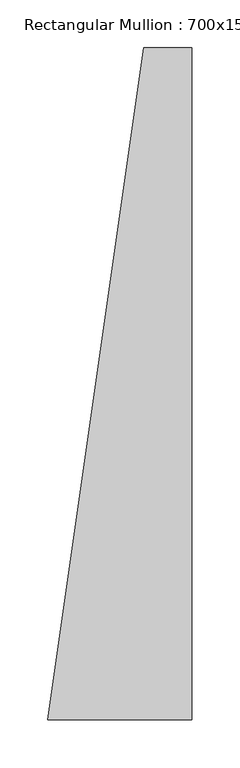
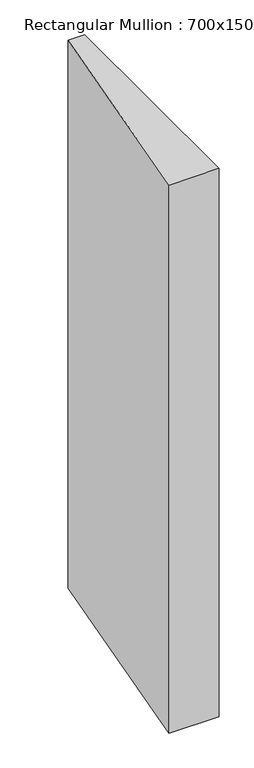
"""IFC4 building model written with IfcOpenShell, lengths in millimetres: member geometry, Rectangular Mullion : 700x150x50mm."""

from ifc_helpers import new_model, si_unit, frame, origin, place, context, project, spatial, polyline, outline, extrude, source, transform, mapped, element, save


def rectangular_mullion_700x150x50mm_c6fa78a9(model_context):
    return source(origin(), model_context, "Body", "SweptSolid", [
        extrude(outline(polyline([(0.0, -350.0), (-150.0, -350.0), (-50.0, 350.0), (0.0, 350.0), (0.0, -350.0)])), frame((0.0, 0.0, -1741.6648236), z_axis=(0.0, 0.0, 1.0), x_axis=(1.0, 0.0, 0.0)), (0.0, 0.0, 1.0), 1741.6648236),
    ])


if __name__ == "__main__":
    model = new_model("IFC4")
    model_context = context("Model", 3, world=origin())
    ifc_project = project(units=[si_unit("LENGTHUNIT", "METRE", prefix="MILLI")], contexts=[model_context])
    site = spatial("IfcSite", under=ifc_project)
    building = spatial("IfcBuilding", under=site)
    placement = place(None, origin())
    rectangular_mullion_700x150x50mm_shape = rectangular_mullion_700x150x50mm_c6fa78a9(model_context)
    element("IfcMember", 1, ObjectType="Rectangular Mullion : 700x150x50mm", at=placement, inside=building, context=model_context, shape_type="MappedRepresentation", body=[
        mapped(rectangular_mullion_700x150x50mm_shape, transform((0.0, 0.0, 0.0), x_axis=(1.0, 0.0, 0.0), y_axis=(0.0, 1.0, 0.0), z_axis=(0.0, 0.0, 1.0))),
    ])
    save(model, "model.ifc")
